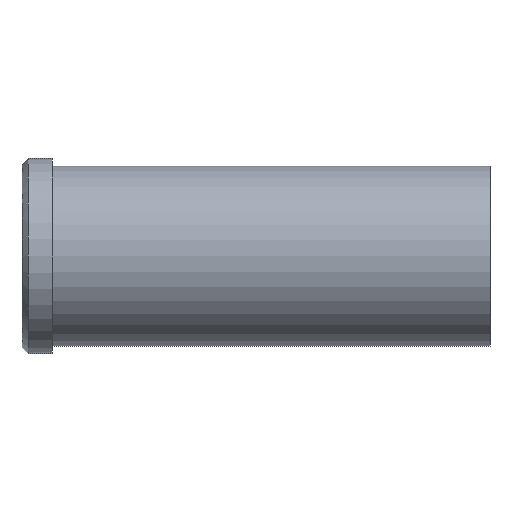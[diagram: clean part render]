
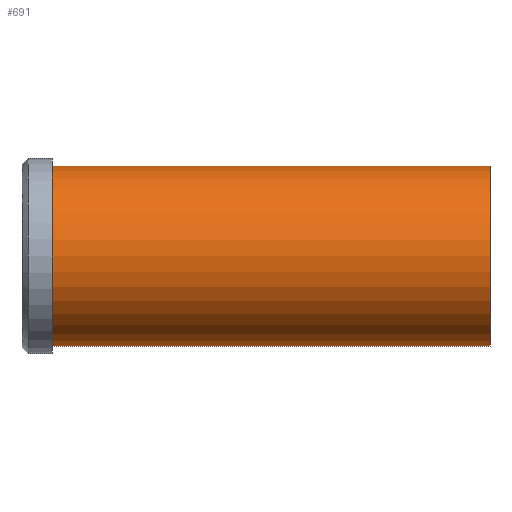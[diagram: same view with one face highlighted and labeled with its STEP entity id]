
A CAD part, front view. The second image highlights one B-rep face of the part: STEP entity #691.
In plain terms, the highlighted cylindrical face has radius 30 mm (diameter 60 mm), a partial arc.
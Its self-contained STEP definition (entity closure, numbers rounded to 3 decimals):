
#501=CARTESIAN_POINT('Vertex',(0.,0.,-30.)) ;
#506=CARTESIAN_POINT('Axis2P3D Location',(0.,0.,0.)) ;
#510=CARTESIAN_POINT('Vertex',(0.,-30.,0.)) ;
#513=CARTESIAN_POINT('Axis2P3D Location',(0.,0.,0.)) ;
#517=CARTESIAN_POINT('Vertex',(0.,0.,30.)) ;
#631=CARTESIAN_POINT('Line Origine',(146.,0.,30.)) ;
#635=CARTESIAN_POINT('Vertex',(146.,0.,30.)) ;
#649=CARTESIAN_POINT('Vertex',(146.,0.,-30.)) ;
#652=CARTESIAN_POINT('Line Origine',(146.,0.,-30.)) ;
#666=CARTESIAN_POINT('Axis2P3D Location',(146.,0.,0.)) ;
#671=CARTESIAN_POINT('Axis2P3D Location',(146.,0.,0.)) ;
#675=CARTESIAN_POINT('Vertex',(146.,-30.,0.)) ;
#678=CARTESIAN_POINT('Axis2P3D Location',(146.,0.,0.)) ;
#507=DIRECTION('Axis2P3D Direction',(1.,0.,-0.)) ;
#514=DIRECTION('Axis2P3D Direction',(1.,0.,-0.)) ;
#632=DIRECTION('Vector Direction',(-1.,0.,0.)) ;
#653=DIRECTION('Vector Direction',(-1.,0.,0.)) ;
#667=DIRECTION('Axis2P3D Direction',(-1.,-0.,-0.)) ;
#668=DIRECTION('Axis2P3D XDirection',(0.,0.,-1.)) ;
#672=DIRECTION('Axis2P3D Direction',(-1.,-0.,-0.)) ;
#679=DIRECTION('Axis2P3D Direction',(-1.,-0.,-0.)) ;
#508=AXIS2_PLACEMENT_3D('Circle Axis2P3D',#506,#507,$) ;
#515=AXIS2_PLACEMENT_3D('Circle Axis2P3D',#513,#514,$) ;
#669=AXIS2_PLACEMENT_3D('Cylinder Axis2P3D',#666,#667,#668) ;
#673=AXIS2_PLACEMENT_3D('Circle Axis2P3D',#671,#672,$) ;
#680=AXIS2_PLACEMENT_3D('Circle Axis2P3D',#678,#679,$) ;
#684=ORIENTED_EDGE('',*,*,#656,.T.) ;
#685=ORIENTED_EDGE('',*,*,#677,.F.) ;
#686=ORIENTED_EDGE('',*,*,#682,.F.) ;
#687=ORIENTED_EDGE('',*,*,#637,.T.) ;
#688=ORIENTED_EDGE('',*,*,#519,.T.) ;
#689=ORIENTED_EDGE('',*,*,#512,.T.) ;
#633=VECTOR('Line Direction',#632,1.) ;
#654=VECTOR('Line Direction',#653,1.) ;
#691=ADVANCED_FACE('353-50X156',(#690),#670,.T.) ;
#509=CIRCLE('generated circle',#508,30.) ;
#516=CIRCLE('generated circle',#515,30.) ;
#674=CIRCLE('generated circle',#673,30.) ;
#681=CIRCLE('generated circle',#680,30.) ;
#670=CYLINDRICAL_SURFACE('generated cylinder',#669,30.) ;
#512=EDGE_CURVE('',#511,#502,#509,.T.) ;
#519=EDGE_CURVE('',#518,#511,#516,.T.) ;
#637=EDGE_CURVE('',#636,#518,#634,.T.) ;
#656=EDGE_CURVE('',#502,#650,#655,.F.) ;
#677=EDGE_CURVE('',#676,#650,#674,.F.) ;
#682=EDGE_CURVE('',#636,#676,#681,.F.) ;
#683=EDGE_LOOP('',(#684,#685,#686,#687,#688,#689)) ;
#690=FACE_OUTER_BOUND('',#683,.T.) ;
#634=LINE('Line',#631,#633) ;
#655=LINE('Line',#652,#654) ;
#502=VERTEX_POINT('',#501) ;
#511=VERTEX_POINT('',#510) ;
#518=VERTEX_POINT('',#517) ;
#636=VERTEX_POINT('',#635) ;
#650=VERTEX_POINT('',#649) ;
#676=VERTEX_POINT('',#675) ;
